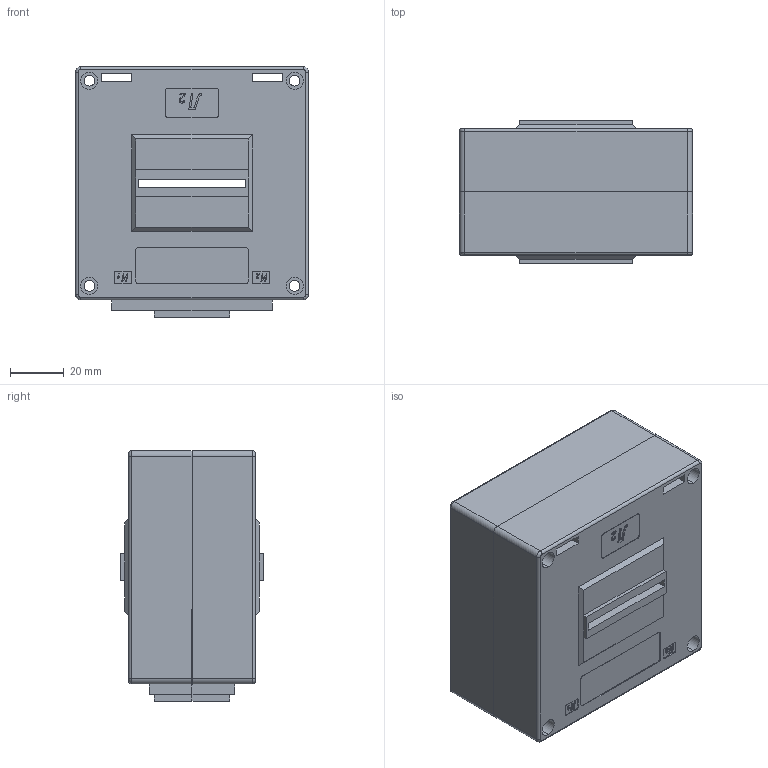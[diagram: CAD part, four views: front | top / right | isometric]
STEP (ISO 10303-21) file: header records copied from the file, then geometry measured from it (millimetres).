
FILE_DESCRIPTION (( 'STEP AP214' ), '1' );
FILE_NAME ('DW-B.STEP', '2015-06-13T07:17:51', ( 'User' ), ( 'Microsoft' ), 'SwSTEP 2.0', 'SolidWorks 2012', '' );
FILE_SCHEMA (( 'AUTOMOTIVE_DESIGN' ));
Length unit declared in the file: millimetre
Products named in the file (3): DW-Bs; DW-B
Assembly tree (2 placements, depth 2):
  DW-B
    DW-Bs
    DW-B
Bounding box: 87 x 53.2 x 93.5 mm (x, y, z)
Volume: 70411.7 mm3; surface area: 71211.6 mm2
Topology: 2 solids, 2 shells, 583 faces, 1599 edges, 1058 vertices
Faces by surface type: plane 349, cylinder 120, bspline 106, torus 8
Entity records: 23151 total; most frequent: CARTESIAN_POINT 8687, ORIENTED_EDGE 3198, DIRECTION 2583, EDGE_CURVE 1599, LINE 1139, VECTOR 1139, VERTEX_POINT 1058, AXIS2_PLACEMENT_3D 722
